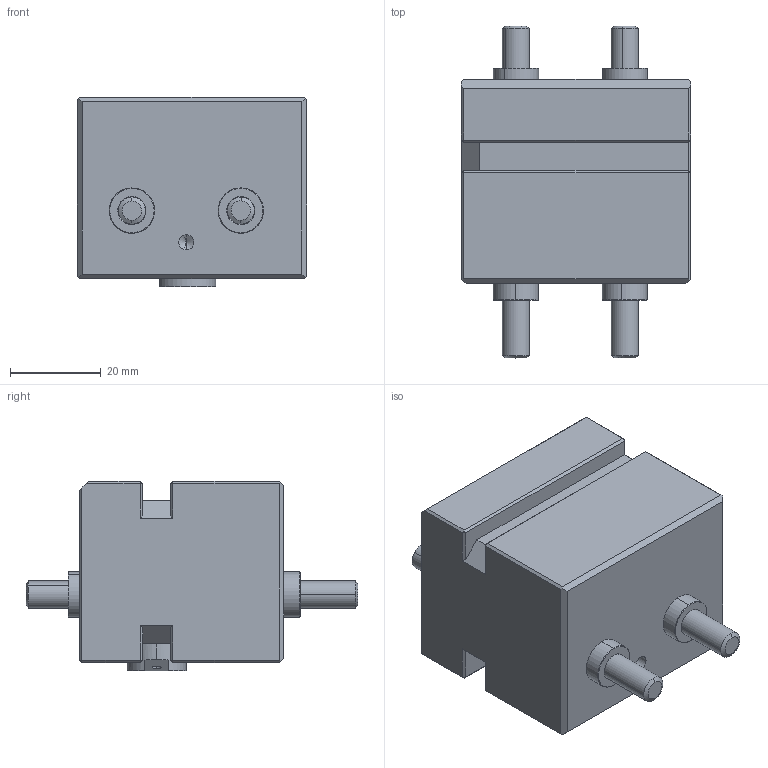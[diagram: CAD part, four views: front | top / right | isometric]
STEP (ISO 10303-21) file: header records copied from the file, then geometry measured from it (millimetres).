
FILE_DESCRIPTION (( 'STEP AP203' ), '1' );
FILE_NAME ('FK-ZM24.STEP', '2026-05-12T07:26:58', ( 'USER-' ), ( 'Microsoft' ), 'SwSTEP 2.0', 'SolidWorks 2018', '' );
FILE_SCHEMA (( 'CONFIG_CONTROL_DESIGN' ));
Length unit declared in the file: millimetre
Products named in the file (8): 内六角沉头螺钉[GBT70_3-2008][M6×30×24]_M6×30×24; FK-ZM24-02 坶踡种-1; 25x10-R5; 111FK-ZM24-01 假蚾價釱; FK-ZM24-03 巠饜种-1; 内六角圆柱头螺钉[GBT70_1-2008][M6×35]_M6×35; FK-ZM24-04 隅弇种杶-1; FK-ZM24
Assembly tree (11 placements, depth 2):
  FK-ZM24
    111FK-ZM24-01 假蚾價釱
    FK-ZM24-02 坶踡种-1
    FK-ZM24-03 巠饜种-1  x2
    FK-ZM24-04 隅弇种杶-1  x2
    内六角圆柱头螺钉[GBT70_1-2008][M6×35]_M6×35  x2
    25x10-R5
    内六角沉头螺钉[GBT70_3-2008][M6×30×24]_M6×30×24  x2
Bounding box: 50.5 x 73.2 x 41.8 mm (x, y, z)
Volume: 97107.6 mm3; surface area: 26100.5 mm2
Topology: 11 solids, 11 shells, 705 faces, 1811 edges, 1169 vertices
Faces by surface type: plane 362, bspline 155, cylinder 123, cone 53, torus 12
Entity records: 25473 total; most frequent: CARTESIAN_POINT 9828, ORIENTED_EDGE 3312, DIRECTION 2555, EDGE_CURVE 1656, VERTEX_POINT 1080, LINE 1073, VECTOR 1073, AXIS2_PLACEMENT_3D 741
